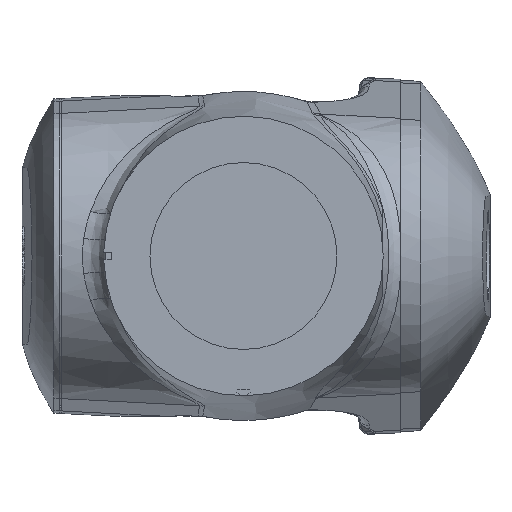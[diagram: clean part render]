
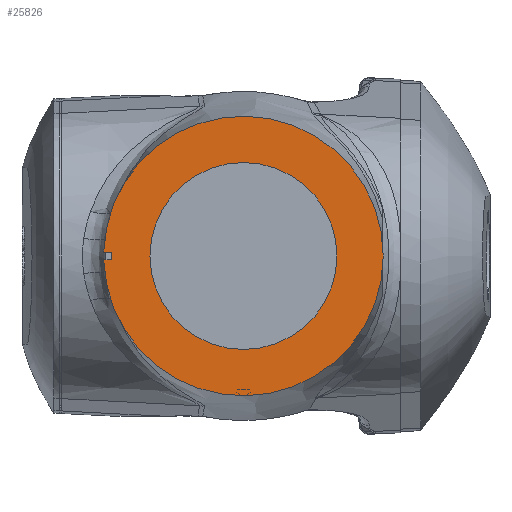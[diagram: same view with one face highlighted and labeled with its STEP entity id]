
A CAD part, left-side view. The second image highlights one B-rep face of the part: STEP entity #25826.
In plain terms, the highlighted planar face has unit normal (-1, 0, 0).
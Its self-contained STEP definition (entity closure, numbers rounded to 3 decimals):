
#149 = DIRECTION ( 'NONE',  ( 0., -1., 0. ) ) ;
#478 = EDGE_LOOP ( 'NONE', ( #5756 ) ) ;
#1277 = VERTEX_POINT ( 'NONE', #13396 ) ;
#1410 = DIRECTION ( 'NONE',  ( -1., 0., 0. ) ) ;
#2561 = VECTOR ( 'NONE', #23703, 1000. ) ;
#2985 = ORIENTED_EDGE ( 'NONE', *, *, #15488, .F. ) ;
#4642 = AXIS2_PLACEMENT_3D ( 'NONE', #29061, #1410, #17141 ) ;
#4715 = AXIS2_PLACEMENT_3D ( 'NONE', #27221, #29793, #9100 ) ;
#5756 = ORIENTED_EDGE ( 'NONE', *, *, #31699, .F. ) ;
#5804 = CIRCLE ( 'NONE', #6986, 95. ) ;
#6177 = DIRECTION ( 'NONE',  ( 0., -1., 0. ) ) ;
#6986 = AXIS2_PLACEMENT_3D ( 'NONE', #30384, #9683, #149 ) ;
#9092 = CARTESIAN_POINT ( 'NONE',  ( 533.002, 0., 2521. ) ) ;
#9100 = DIRECTION ( 'NONE',  ( 0., -1., 0. ) ) ;
#9683 = DIRECTION ( 'NONE',  ( -1., 0., 0. ) ) ;
#10595 = ORIENTED_EDGE ( 'NONE', *, *, #11668, .T. ) ;
#11437 = CARTESIAN_POINT ( 'NONE',  ( 533.002, 141.944, 2529. ) ) ;
#11668 = EDGE_CURVE ( 'NONE', #14087, #15790, #18557, .T. ) ;
#12731 = VECTOR ( 'NONE', #6177, 1000. ) ;
#13396 = CARTESIAN_POINT ( 'NONE',  ( 533.002, 141.944, 2521. ) ) ;
#14087 = VERTEX_POINT ( 'NONE', #11437 ) ;
#15488 = EDGE_CURVE ( 'NONE', #19956, #15790, #30220, .T. ) ;
#15790 = VERTEX_POINT ( 'NONE', #35560 ) ;
#15796 = EDGE_LOOP ( 'NONE', ( #2985, #32777, #34483, #10595 ) ) ;
#17141 = DIRECTION ( 'NONE',  ( 0., -1., 0. ) ) ;
#18557 = LINE ( 'NONE', #27507, #12731 ) ;
#19956 = VERTEX_POINT ( 'NONE', #27535 ) ;
#21087 = PLANE ( 'NONE',  #4715 ) ;
#21862 = LINE ( 'NONE', #9092, #36586 ) ;
#23703 = DIRECTION ( 'NONE',  ( 0., 0., 1. ) ) ;
#25826 = ADVANCED_FACE ( 'NONE', ( #36559, #30396 ), #21087, .T. ) ;
#26954 = CIRCLE ( 'NONE', #4642, 142. ) ;
#27221 = CARTESIAN_POINT ( 'NONE',  ( 533.002, 0., 2525. ) ) ;
#27507 = CARTESIAN_POINT ( 'NONE',  ( 533.002, 0., 2529. ) ) ;
#27535 = CARTESIAN_POINT ( 'NONE',  ( 533.002, 134., 2521. ) ) ;
#29061 = CARTESIAN_POINT ( 'NONE',  ( 533.002, 0., 2525. ) ) ;
#29793 = DIRECTION ( 'NONE',  ( -1., 0., 0. ) ) ;
#30220 = LINE ( 'NONE', #36401, #2561 ) ;
#30384 = CARTESIAN_POINT ( 'NONE',  ( 533.002, 0., 2525. ) ) ;
#30388 = DIRECTION ( 'NONE',  ( 0., 1., 0. ) ) ;
#30396 = FACE_OUTER_BOUND ( 'NONE', #15796, .T. ) ;
#31699 = EDGE_CURVE ( 'NONE', #35386, #35386, #5804, .T. ) ;
#32777 = ORIENTED_EDGE ( 'NONE', *, *, #36773, .T. ) ;
#34483 = ORIENTED_EDGE ( 'NONE', *, *, #35127, .T. ) ;
#35127 = EDGE_CURVE ( 'NONE', #1277, #14087, #26954, .T. ) ;
#35386 = VERTEX_POINT ( 'NONE', #38163 ) ;
#35560 = CARTESIAN_POINT ( 'NONE',  ( 533.002, 134., 2529. ) ) ;
#36401 = CARTESIAN_POINT ( 'NONE',  ( 533.002, 134., 2525. ) ) ;
#36559 = FACE_BOUND ( 'NONE', #478, .T. ) ;
#36586 = VECTOR ( 'NONE', #30388, 1000. ) ;
#36773 = EDGE_CURVE ( 'NONE', #19956, #1277, #21862, .T. ) ;
#38163 = CARTESIAN_POINT ( 'NONE',  ( 533.002, -95., 2525. ) ) ;
